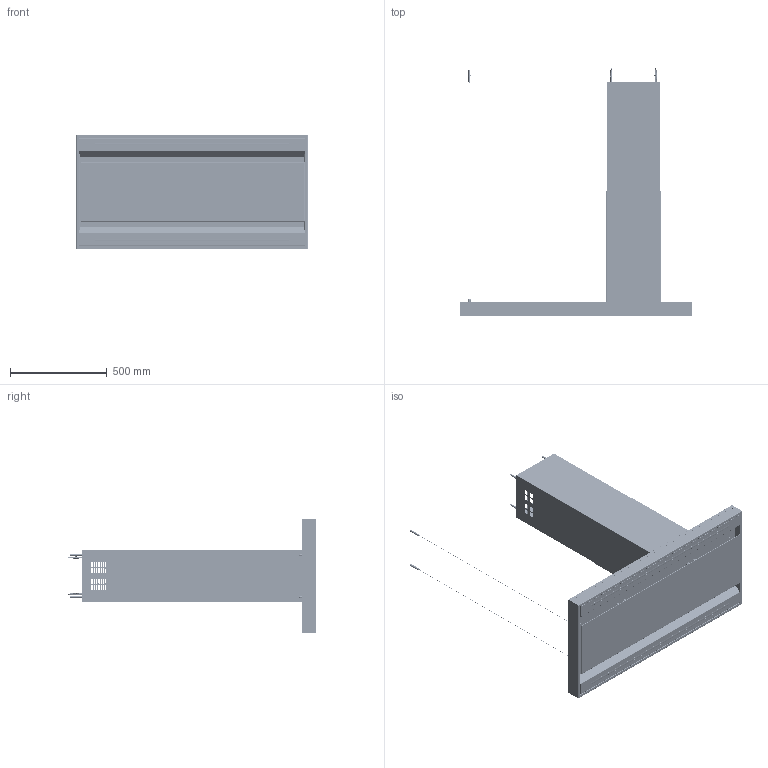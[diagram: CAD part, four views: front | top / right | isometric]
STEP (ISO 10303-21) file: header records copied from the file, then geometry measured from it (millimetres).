
FILE_DESCRIPTION(('CATIA V5 STEP Exchange'),'2;1');
FILE_NAME('C:\Users\linop\Desktop\KLTI12L4MB\KLTI12L4MB.stp','2024-03-08T08:20:19+00:00',('none'),('none'),'CATIA Version 5-6 Release 2014','CATIA V5 STEP AP203','none');
FILE_SCHEMA(('CONFIG_CONTROL_DESIGN'));
Products named in the file (6): KLTI12L4MB; APELL16500005300; APELL222004625; APELLpannello cappa isola 120cm; APELL222004624; APELL222004707
Assembly tree (53 placements, depth 3):
  KLTI12L4MB
    #57  x4
    #77149  x2
    #77844  x2
    APELL16500005300  x2
      #87603
      #88432
    #93438  x4
    #95667  x2
    #97732  x4
    #122603  x2
    #126688  x4
    #127095  x4
    #127666  x4
    #128055  x2
    APELL222004625
      #129712
      #132275
    APELLpannello cappa isola 120cm
      #133946
      #142571  x2
      #146947
    APELL222004624
      #162878  x2
    #171980
    #178743
    APELL222004707
      #184100
Bounding box: 1198 x 1286.15 x 590 mm (x, y, z)
Volume: 4087726.2 mm3; surface area: 8593275.9 mm2
Topology: 73 solids, 909 shells, 16072 faces, 43125 edges, 28745 vertices
Faces by surface type: plane 7256, cylinder 4897, bspline 3621, cone 170, torus 88, revolution 36, sphere 4
Entity records: 193912 total; most frequent: CARTESIAN_POINT 64720, ORIENTED_EDGE 29652, DIRECTION 20377, EDGE_CURVE 15386, VERTEX_POINT 10109, VECTOR 8926, LINE 8926, AXIS2_PLACEMENT_3D 6623
